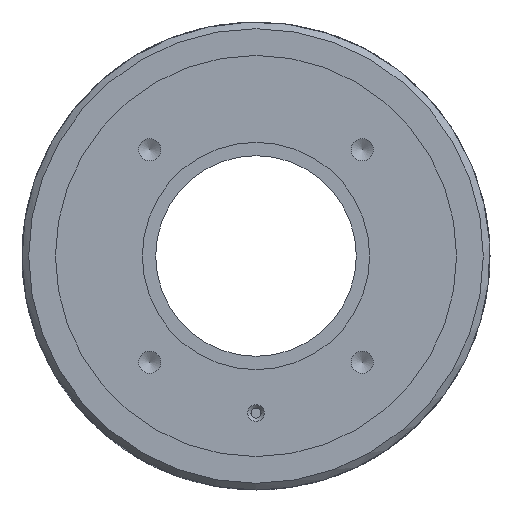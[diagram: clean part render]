
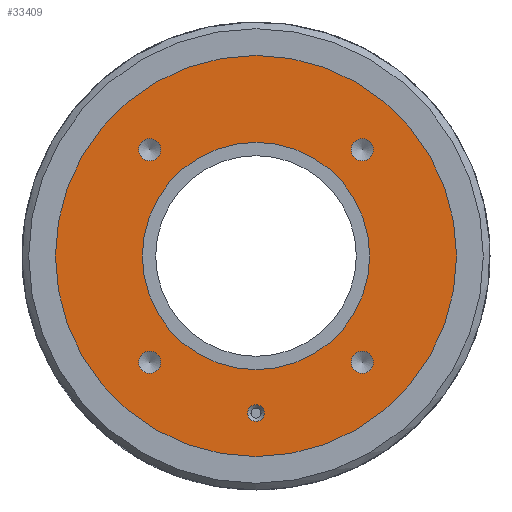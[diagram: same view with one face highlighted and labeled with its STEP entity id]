
A CAD part, left-side view. The second image highlights one B-rep face of the part: STEP entity #33409.
In plain terms, the highlighted planar face has unit normal (-1, 0, 0).
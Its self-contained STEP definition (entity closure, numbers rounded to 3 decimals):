
#315=FACE_BOUND('',#4110,.T.);
#316=FACE_BOUND('',#4111,.T.);
#317=FACE_BOUND('',#4112,.T.);
#318=FACE_BOUND('',#4113,.T.);
#319=FACE_BOUND('',#4114,.T.);
#320=FACE_BOUND('',#4115,.T.);
#686=PLANE('',#37543);
#2287=FACE_OUTER_BOUND('',#4109,.T.);
#4109=EDGE_LOOP('',(#28034));
#4110=EDGE_LOOP('',(#28035));
#4111=EDGE_LOOP('',(#28036));
#4112=EDGE_LOOP('',(#28037));
#4113=EDGE_LOOP('',(#28038));
#4114=EDGE_LOOP('',(#28039));
#4115=EDGE_LOOP('',(#28040));
#11111=CIRCLE('',#37498,60.);
#11115=CIRCLE('',#37505,2.5);
#11118=CIRCLE('',#37511,3.324);
#11120=CIRCLE('',#37515,3.324);
#11122=CIRCLE('',#37519,3.324);
#11124=CIRCLE('',#37523,3.324);
#11137=CIRCLE('',#37542,34.);
#14189=VERTEX_POINT('',#58077);
#14193=VERTEX_POINT('',#58091);
#14197=VERTEX_POINT('',#58104);
#14200=VERTEX_POINT('',#58113);
#14203=VERTEX_POINT('',#58122);
#14206=VERTEX_POINT('',#58131);
#14212=VERTEX_POINT('',#58159);
#18854=EDGE_CURVE('',#14189,#14189,#11111,.T.);
#18860=EDGE_CURVE('',#14193,#14193,#11115,.T.);
#18866=EDGE_CURVE('',#14197,#14197,#11118,.T.);
#18870=EDGE_CURVE('',#14200,#14200,#11120,.T.);
#18874=EDGE_CURVE('',#14203,#14203,#11122,.T.);
#18878=EDGE_CURVE('',#14206,#14206,#11124,.T.);
#18895=EDGE_CURVE('',#14212,#14212,#11137,.T.);
#28034=ORIENTED_EDGE('',*,*,#18854,.F.);
#28035=ORIENTED_EDGE('',*,*,#18860,.T.);
#28036=ORIENTED_EDGE('',*,*,#18866,.T.);
#28037=ORIENTED_EDGE('',*,*,#18870,.T.);
#28038=ORIENTED_EDGE('',*,*,#18874,.T.);
#28039=ORIENTED_EDGE('',*,*,#18878,.T.);
#28040=ORIENTED_EDGE('',*,*,#18895,.T.);
#33409=ADVANCED_FACE('',(#2287,#315,#316,#317,#318,#319,#320),#686,.T.);
#37498=AXIS2_PLACEMENT_3D('',#58079,#47506,#47507);
#37505=AXIS2_PLACEMENT_3D('',#58092,#47522,#47523);
#37511=AXIS2_PLACEMENT_3D('',#58105,#47537,#47538);
#37515=AXIS2_PLACEMENT_3D('',#58114,#47547,#47548);
#37519=AXIS2_PLACEMENT_3D('',#58123,#47557,#47558);
#37523=AXIS2_PLACEMENT_3D('',#58132,#47567,#47568);
#37542=AXIS2_PLACEMENT_3D('',#58161,#47609,#47610);
#37543=AXIS2_PLACEMENT_3D('',#58162,#47611,#47612);
#47506=DIRECTION('center_axis',(1.,0.,0.));
#47507=DIRECTION('ref_axis',(0.,0.,
-1.));
#47522=DIRECTION('center_axis',(1.,0.,0.));
#47523=DIRECTION('ref_axis',(0.,1.,0.));
#47537=DIRECTION('center_axis',(1.,0.,0.));
#47538=DIRECTION('ref_axis',(0.,0.,
1.));
#47547=DIRECTION('center_axis',(1.,0.,0.));
#47548=DIRECTION('ref_axis',(0.,0.,
1.));
#47557=DIRECTION('center_axis',(1.,0.,0.));
#47558=DIRECTION('ref_axis',(0.,0.,
1.));
#47567=DIRECTION('center_axis',(1.,0.,0.));
#47568=DIRECTION('ref_axis',(0.,0.,
1.));
#47609=DIRECTION('center_axis',(1.,0.,0.));
#47610=DIRECTION('ref_axis',(0.,0.,
-1.));
#47611=DIRECTION('center_axis',(-1.,0.,0.));
#47612=DIRECTION('ref_axis',(0.,0.,
1.));
#58077=CARTESIAN_POINT('',(-17.5,-60.,0.));
#58079=CARTESIAN_POINT('Origin',(-17.5,0.,0.));
#58091=CARTESIAN_POINT('',(-17.5,-2.5,-47.));
#58092=CARTESIAN_POINT('Origin',(-17.5,0.,-47.));
#58104=CARTESIAN_POINT('',(-17.5,-31.82,28.496));
#58105=CARTESIAN_POINT('Origin',(-17.5,-31.82,31.82));
#58113=CARTESIAN_POINT('',(-17.5,31.82,-35.143));
#58114=CARTESIAN_POINT('Origin',(-17.5,31.82,-31.82));
#58122=CARTESIAN_POINT('',(-17.5,-31.82,-35.143));
#58123=CARTESIAN_POINT('Origin',(-17.5,-31.82,-31.82));
#58131=CARTESIAN_POINT('',(-17.5,31.82,28.496));
#58132=CARTESIAN_POINT('Origin',(-17.5,31.82,31.82));
#58159=CARTESIAN_POINT('',(-17.5,-34.,0.));
#58161=CARTESIAN_POINT('Origin',(-17.5,0.,0.));
#58162=CARTESIAN_POINT('Origin',(-17.5,60.,0.));
